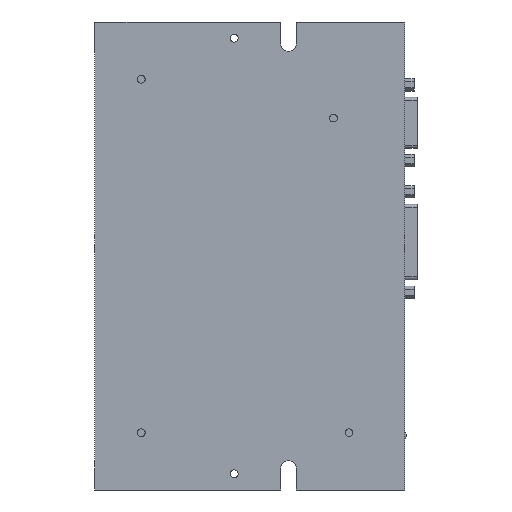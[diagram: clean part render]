
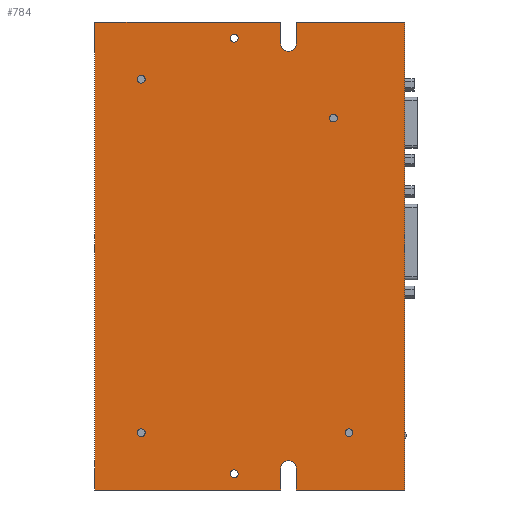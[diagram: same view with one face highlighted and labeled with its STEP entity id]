
A CAD part, front view. The second image highlights one B-rep face of the part: STEP entity #784.
In plain terms, the highlighted planar face has unit normal (0, -1, 0).
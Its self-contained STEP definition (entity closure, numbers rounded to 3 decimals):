
#57=DIRECTION('',(0.,0.,1.));
#58=VECTOR('',#57,151.);
#59=CARTESIAN_POINT('',(0.,3.,-75.5));
#60=LINE('',#59,#58);
#91=CARTESIAN_POINT('',(15.,3.,-57.));
#92=DIRECTION('',(0.,1.,0.));
#93=DIRECTION('',(0.,0.,-1.));
#94=AXIS2_PLACEMENT_3D('',#91,#92,#93);
#96=CARTESIAN_POINT('',(15.,3.,-57.));
#97=DIRECTION('',(0.,1.,0.));
#98=DIRECTION('',(0.,0.,1.));
#99=AXIS2_PLACEMENT_3D('',#96,#97,#98);
#101=CARTESIAN_POINT('',(15.,3.,57.));
#102=DIRECTION('',(0.,1.,0.));
#103=DIRECTION('',(0.,0.,-1.));
#104=AXIS2_PLACEMENT_3D('',#101,#102,#103);
#106=CARTESIAN_POINT('',(15.,3.,57.));
#107=DIRECTION('',(0.,1.,0.));
#108=DIRECTION('',(0.,0.,1.));
#109=AXIS2_PLACEMENT_3D('',#106,#107,#108);
#111=CARTESIAN_POINT('',(82.,3.,-57.));
#112=DIRECTION('',(0.,1.,0.));
#113=DIRECTION('',(0.,0.,-1.));
#114=AXIS2_PLACEMENT_3D('',#111,#112,#113);
#116=CARTESIAN_POINT('',(82.,3.,-57.));
#117=DIRECTION('',(0.,1.,0.));
#118=DIRECTION('',(0.,0.,1.));
#119=AXIS2_PLACEMENT_3D('',#116,#117,#118);
#121=CARTESIAN_POINT('',(77.,3.,44.5));
#122=DIRECTION('',(0.,1.,0.));
#123=DIRECTION('',(0.,0.,-1.));
#124=AXIS2_PLACEMENT_3D('',#121,#122,#123);
#126=CARTESIAN_POINT('',(77.,3.,44.5));
#127=DIRECTION('',(0.,1.,0.));
#128=DIRECTION('',(0.,0.,1.));
#129=AXIS2_PLACEMENT_3D('',#126,#127,#128);
#131=CARTESIAN_POINT('',(45.,3.,70.25));
#132=DIRECTION('',(0.,1.,0.));
#133=DIRECTION('',(0.,0.,-1.));
#134=AXIS2_PLACEMENT_3D('',#131,#132,#133);
#136=CARTESIAN_POINT('',(45.,3.,70.25));
#137=DIRECTION('',(0.,1.,0.));
#138=DIRECTION('',(0.,0.,1.));
#139=AXIS2_PLACEMENT_3D('',#136,#137,#138);
#141=CARTESIAN_POINT('',(45.,3.,-70.25));
#142=DIRECTION('',(0.,1.,0.));
#143=DIRECTION('',(0.,0.,-1.));
#144=AXIS2_PLACEMENT_3D('',#141,#142,#143);
#146=CARTESIAN_POINT('',(45.,3.,-70.25));
#147=DIRECTION('',(0.,1.,0.));
#148=DIRECTION('',(0.,0.,1.));
#149=AXIS2_PLACEMENT_3D('',#146,#147,#148);
#151=DIRECTION('',(0.,0.,1.));
#152=VECTOR('',#151,7.);
#153=CARTESIAN_POINT('',(60.,3.,-75.5));
#154=LINE('',#153,#152);
#155=DIRECTION('',(-1.,0.,0.));
#156=VECTOR('',#155,60.);
#157=CARTESIAN_POINT('',(60.,3.,-75.5));
#158=LINE('',#157,#156);
#159=DIRECTION('',(1.,0.,0.));
#160=VECTOR('',#159,60.);
#161=CARTESIAN_POINT('',(0.,3.,75.5));
#162=LINE('',#161,#160);
#163=DIRECTION('',(0.,0.,-1.));
#164=VECTOR('',#163,7.);
#165=CARTESIAN_POINT('',(60.,3.,75.5));
#166=LINE('',#165,#164);
#167=CARTESIAN_POINT('',(62.5,3.,68.5));
#168=DIRECTION('',(0.,1.,0.));
#169=DIRECTION('',(1.,0.,0.));
#170=AXIS2_PLACEMENT_3D('',#167,#168,#169);
#172=DIRECTION('',(0.,0.,-1.));
#173=VECTOR('',#172,7.);
#174=CARTESIAN_POINT('',(65.,3.,75.5));
#175=LINE('',#174,#173);
#176=DIRECTION('',(1.,0.,0.));
#177=VECTOR('',#176,35.);
#178=CARTESIAN_POINT('',(65.,3.,75.5));
#179=LINE('',#178,#177);
#180=DIRECTION('',(-1.,0.,0.));
#181=VECTOR('',#180,35.);
#182=CARTESIAN_POINT('',(100.,3.,-75.5));
#183=LINE('',#182,#181);
#184=DIRECTION('',(0.,0.,1.));
#185=VECTOR('',#184,7.);
#186=CARTESIAN_POINT('',(65.,3.,-75.5));
#187=LINE('',#186,#185);
#188=CARTESIAN_POINT('',(62.5,3.,-68.5));
#189=DIRECTION('',(0.,1.,0.));
#190=DIRECTION('',(-1.,0.,0.));
#191=AXIS2_PLACEMENT_3D('',#188,#189,#190);
#443=DIRECTION('',(0.,0.,1.));
#444=VECTOR('',#443,151.);
#445=CARTESIAN_POINT('',(100.,3.,-75.5));
#446=LINE('',#445,#444);
#455=CARTESIAN_POINT('',(100.,3.,-75.5));
#457=VERTEX_POINT('',#455);
#463=CARTESIAN_POINT('',(100.,3.,75.5));
#465=VERTEX_POINT('',#463);
#503=CARTESIAN_POINT('',(15.,3.,-58.25));
#504=CARTESIAN_POINT('',(15.,3.,-55.75));
#505=VERTEX_POINT('',#503);
#506=VERTEX_POINT('',#504);
#507=CARTESIAN_POINT('',(15.,3.,55.75));
#508=CARTESIAN_POINT('',(15.,3.,58.25));
#509=VERTEX_POINT('',#507);
#510=VERTEX_POINT('',#508);
#511=CARTESIAN_POINT('',(82.,3.,-58.25));
#512=CARTESIAN_POINT('',(82.,3.,-55.75));
#513=VERTEX_POINT('',#511);
#514=VERTEX_POINT('',#512);
#515=CARTESIAN_POINT('',(77.,3.,43.25));
#516=CARTESIAN_POINT('',(77.,3.,45.75));
#517=VERTEX_POINT('',#515);
#518=VERTEX_POINT('',#516);
#535=CARTESIAN_POINT('',(45.,3.,69.));
#536=CARTESIAN_POINT('',(45.,3.,71.5));
#537=VERTEX_POINT('',#535);
#538=VERTEX_POINT('',#536);
#539=CARTESIAN_POINT('',(45.,3.,-71.5));
#540=CARTESIAN_POINT('',(45.,3.,-69.));
#541=VERTEX_POINT('',#539);
#542=VERTEX_POINT('',#540);
#551=CARTESIAN_POINT('',(0.,3.,-75.5));
#552=CARTESIAN_POINT('',(0.,3.,75.5));
#553=VERTEX_POINT('',#551);
#554=VERTEX_POINT('',#552);
#555=CARTESIAN_POINT('',(60.,3.,-75.5));
#557=VERTEX_POINT('',#555);
#559=CARTESIAN_POINT('',(65.,3.,-75.5));
#561=VERTEX_POINT('',#559);
#563=CARTESIAN_POINT('',(65.,3.,75.5));
#565=VERTEX_POINT('',#563);
#567=CARTESIAN_POINT('',(60.,3.,75.5));
#569=VERTEX_POINT('',#567);
#571=CARTESIAN_POINT('',(60.,3.,-68.5));
#572=VERTEX_POINT('',#571);
#573=CARTESIAN_POINT('',(65.,3.,-68.5));
#574=VERTEX_POINT('',#573);
#575=CARTESIAN_POINT('',(65.,3.,68.5));
#576=VERTEX_POINT('',#575);
#577=CARTESIAN_POINT('',(60.,3.,68.5));
#578=VERTEX_POINT('',#577);
#720=CARTESIAN_POINT('',(6.,3.,-75.5));
#721=DIRECTION('',(0.,-1.,0.));
#722=DIRECTION('',(1.,0.,0.));
#723=AXIS2_PLACEMENT_3D('',#720,#721,#722);
#724=PLANE('',#723);
#726=ORIENTED_EDGE('',*,*,#725,.F.);
#727=ORIENTED_EDGE('',*,*,#642,.T.);
#728=ORIENTED_EDGE('',*,*,#698,.T.);
#730=ORIENTED_EDGE('',*,*,#729,.T.);
#732=ORIENTED_EDGE('',*,*,#731,.T.);
#734=ORIENTED_EDGE('',*,*,#733,.F.);
#736=ORIENTED_EDGE('',*,*,#735,.F.);
#738=ORIENTED_EDGE('',*,*,#737,.T.);
#740=ORIENTED_EDGE('',*,*,#739,.F.);
#741=ORIENTED_EDGE('',*,*,#618,.T.);
#743=ORIENTED_EDGE('',*,*,#742,.T.);
#745=ORIENTED_EDGE('',*,*,#744,.F.);
#746=EDGE_LOOP('',(#726,#727,#728,#730,#732,#734,#736,#738,#740,#741,#743,
#745));
#747=FACE_OUTER_BOUND('',#746,.F.);
#749=ORIENTED_EDGE('',*,*,#748,.F.);
#751=ORIENTED_EDGE('',*,*,#750,.F.);
#752=EDGE_LOOP('',(#749,#751));
#753=FACE_BOUND('',#752,.F.);
#755=ORIENTED_EDGE('',*,*,#754,.F.);
#757=ORIENTED_EDGE('',*,*,#756,.F.);
#758=EDGE_LOOP('',(#755,#757));
#759=FACE_BOUND('',#758,.F.);
#761=ORIENTED_EDGE('',*,*,#760,.F.);
#763=ORIENTED_EDGE('',*,*,#762,.F.);
#764=EDGE_LOOP('',(#761,#763));
#765=FACE_BOUND('',#764,.F.);
#767=ORIENTED_EDGE('',*,*,#766,.F.);
#769=ORIENTED_EDGE('',*,*,#768,.F.);
#770=EDGE_LOOP('',(#767,#769));
#771=FACE_BOUND('',#770,.F.);
#773=ORIENTED_EDGE('',*,*,#772,.F.);
#775=ORIENTED_EDGE('',*,*,#774,.F.);
#776=EDGE_LOOP('',(#773,#775));
#777=FACE_BOUND('',#776,.F.);
#779=ORIENTED_EDGE('',*,*,#778,.F.);
#781=ORIENTED_EDGE('',*,*,#780,.F.);
#782=EDGE_LOOP('',(#779,#781));
#783=FACE_BOUND('',#782,.F.);
#95=CIRCLE('',#94,1.25);
#100=CIRCLE('',#99,1.25);
#105=CIRCLE('',#104,1.25);
#110=CIRCLE('',#109,1.25);
#115=CIRCLE('',#114,1.25);
#120=CIRCLE('',#119,1.25);
#125=CIRCLE('',#124,1.25);
#130=CIRCLE('',#129,1.25);
#135=CIRCLE('',#134,1.25);
#140=CIRCLE('',#139,1.25);
#145=CIRCLE('',#144,1.25);
#150=CIRCLE('',#149,1.25);
#171=CIRCLE('',#170,2.5);
#192=CIRCLE('',#191,2.5);
#618=EDGE_CURVE('',#457,#561,#183,.T.);
#642=EDGE_CURVE('',#557,#553,#158,.T.);
#698=EDGE_CURVE('',#553,#554,#60,.T.);
#725=EDGE_CURVE('',#557,#572,#154,.T.);
#729=EDGE_CURVE('',#554,#569,#162,.T.);
#731=EDGE_CURVE('',#569,#578,#166,.T.);
#733=EDGE_CURVE('',#576,#578,#171,.T.);
#735=EDGE_CURVE('',#565,#576,#175,.T.);
#737=EDGE_CURVE('',#565,#465,#179,.T.);
#739=EDGE_CURVE('',#457,#465,#446,.T.);
#742=EDGE_CURVE('',#561,#574,#187,.T.);
#744=EDGE_CURVE('',#572,#574,#192,.T.);
#748=EDGE_CURVE('',#509,#510,#105,.T.);
#750=EDGE_CURVE('',#510,#509,#110,.T.);
#754=EDGE_CURVE('',#513,#514,#115,.T.);
#756=EDGE_CURVE('',#514,#513,#120,.T.);
#760=EDGE_CURVE('',#517,#518,#125,.T.);
#762=EDGE_CURVE('',#518,#517,#130,.T.);
#766=EDGE_CURVE('',#537,#538,#135,.T.);
#768=EDGE_CURVE('',#538,#537,#140,.T.);
#772=EDGE_CURVE('',#541,#542,#145,.T.);
#774=EDGE_CURVE('',#542,#541,#150,.T.);
#778=EDGE_CURVE('',#505,#506,#95,.T.);
#780=EDGE_CURVE('',#506,#505,#100,.T.);
#784=ADVANCED_FACE('',(#747,#753,#759,#765,#771,#777,#783),#724,.T.);
